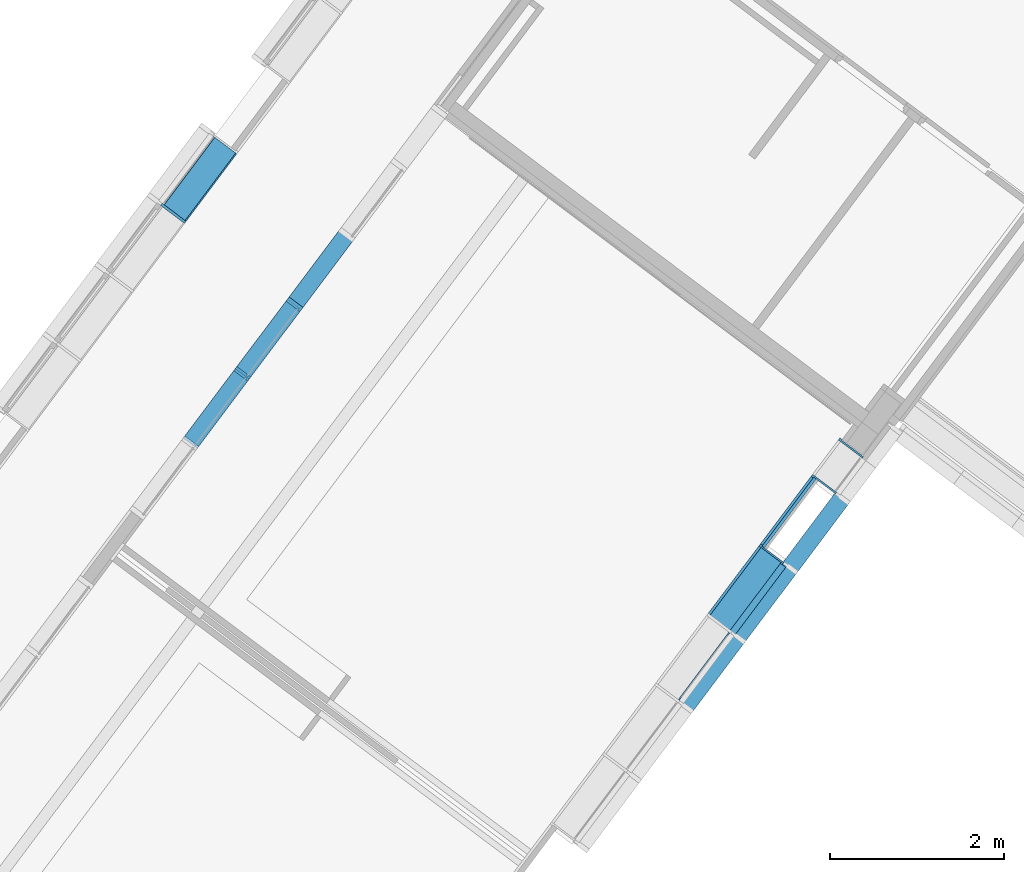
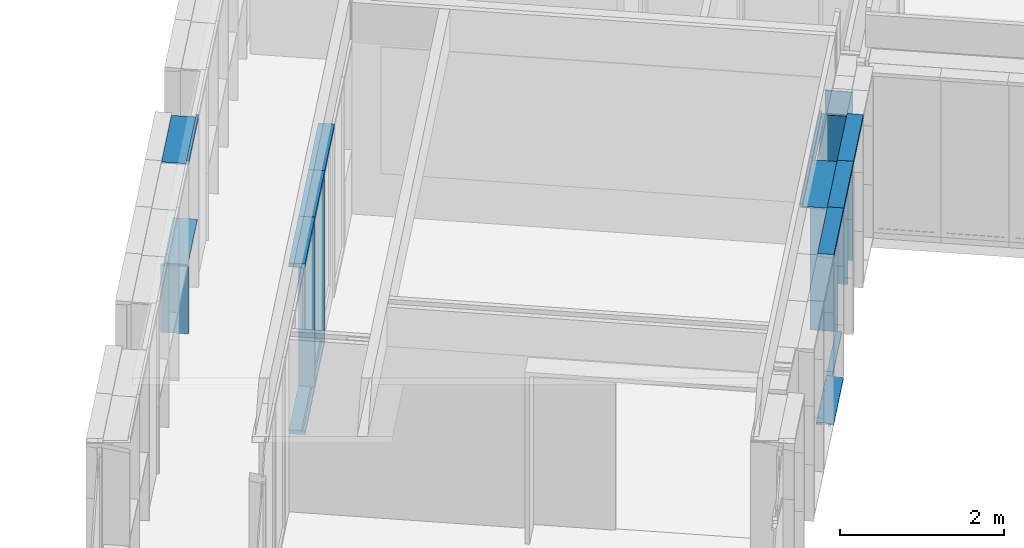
# One storey, part 59 of 243: 20 members, 4 elements without a shape of their own.
"""IFC2X3 building model written with IfcOpenShell, lengths in metres."""

from ifc_helpers import new_model, entity, si_unit, converted_unit, derived_unit, direction, frame, frame_2d, origin, origin_2d_with_axis, place, context, subcontext, project, spatial, polyline, circle_curve, parameter, trimmed, segment, composite_curve, rectangle, outline, extrude, source, transform, mapped, material, type_object, type_shapes, element, aggregate, save


model = new_model("IFC2X3")

# Units and contexts
model_context = context("Model", 3, precision=1e-05, world=origin(), true_north=direction((6.123031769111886e-17, 1.0)))
body_context = subcontext(model_context, "Body", "Model", "MODEL_VIEW")
ifc_project = project(units=[si_unit("LENGTHUNIT", "METRE"), si_unit("AREAUNIT", "SQUARE_METRE"), si_unit("VOLUMEUNIT", "CUBIC_METRE"), converted_unit("PLANEANGLEUNIT", "DEGREE", entity("IfcRatioMeasure", 0.017453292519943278), si_unit("PLANEANGLEUNIT", "RADIAN"), dimensions=[0, 0, 0, 0, 0, 0, 0]), si_unit("MASSUNIT", "GRAM", prefix="KILO"), derived_unit("MASSDENSITYUNIT", [(si_unit("MASSUNIT", "GRAM", prefix="KILO"), 1), (si_unit("LENGTHUNIT", "METRE"), -3)]), derived_unit("IONCONCENTRATIONUNIT", [(si_unit("MASSUNIT", "GRAM", prefix="KILO"), 1), (si_unit("LENGTHUNIT", "METRE"), -3)]), derived_unit("MOMENTOFINERTIAUNIT", [(si_unit("LENGTHUNIT", "METRE"), 4)]), si_unit("TIMEUNIT", "SECOND"), si_unit("FREQUENCYUNIT", "HERTZ"), si_unit("THERMODYNAMICTEMPERATUREUNIT", "DEGREE_CELSIUS"), derived_unit("THERMALTRANSMITTANCEUNIT", [(si_unit("MASSUNIT", "GRAM", prefix="KILO"), 1), (si_unit("THERMODYNAMICTEMPERATUREUNIT", "KELVIN"), -1), (si_unit("TIMEUNIT", "SECOND"), -3)]), derived_unit("THERMALCONDUCTANCEUNIT", [(si_unit("MASSUNIT", "GRAM", prefix="KILO"), 1), (si_unit("THERMODYNAMICTEMPERATUREUNIT", "KELVIN"), -1), (si_unit("TIMEUNIT", "SECOND"), -3), (si_unit("LENGTHUNIT", "METRE"), 1)]), derived_unit("VOLUMETRICFLOWRATEUNIT", [(si_unit("LENGTHUNIT", "METRE"), 3), (si_unit("TIMEUNIT", "SECOND"), -1)]), derived_unit("MASSFLOWRATEUNIT", [(si_unit("MASSUNIT", "GRAM", prefix="KILO"), 1), (si_unit("TIMEUNIT", "SECOND"), -1)]), derived_unit("ROTATIONALFREQUENCYUNIT", [(si_unit("TIMEUNIT", "SECOND"), -1)]), si_unit("ELECTRICCURRENTUNIT", "AMPERE"), si_unit("ELECTRICVOLTAGEUNIT", "VOLT"), si_unit("POWERUNIT", "WATT"), si_unit("FORCEUNIT", "NEWTON", prefix="KILO"), si_unit("ILLUMINANCEUNIT", "LUX"), si_unit("LUMINOUSFLUXUNIT", "LUMEN"), si_unit("LUMINOUSINTENSITYUNIT", "CANDELA"), derived_unit("USERDEFINED", [(si_unit("MASSUNIT", "GRAM", prefix="KILO"), -1), (si_unit("LENGTHUNIT", "METRE"), -2), (si_unit("TIMEUNIT", "SECOND"), 3), (si_unit("LUMINOUSFLUXUNIT", "LUMEN"), 1)]), derived_unit("USERDEFINED", [(si_unit("MASSUNIT", "GRAM", prefix="KILO"), 1), (si_unit("TIMEUNIT", "SECOND"), -3), (si_unit("LENGTHUNIT", "METRE"), 3), (si_unit("ELECTRICCURRENTUNIT", "AMPERE"), -2)]), derived_unit("SOUNDPOWERUNIT", [(si_unit("MASSUNIT", "GRAM", prefix="KILO"), 1), (si_unit("TIMEUNIT", "SECOND"), -3), (si_unit("LENGTHUNIT", "METRE"), 2)]), derived_unit("SOUNDPRESSUREUNIT", [(si_unit("MASSUNIT", "GRAM", prefix="KILO"), 1), (si_unit("LENGTHUNIT", "METRE"), -1), (si_unit("TIMEUNIT", "SECOND"), -2)]), derived_unit("LINEARVELOCITYUNIT", [(si_unit("LENGTHUNIT", "METRE"), 1), (si_unit("TIMEUNIT", "SECOND"), -1)]), si_unit("PRESSUREUNIT", "PASCAL"), derived_unit("USERDEFINED", [(si_unit("MASSUNIT", "GRAM", prefix="KILO"), 1), (si_unit("LENGTHUNIT", "METRE"), -2), (si_unit("TIMEUNIT", "SECOND"), -2)]), derived_unit("LINEARFORCEUNIT", [(si_unit("MASSUNIT", "GRAM", prefix="KILO"), 1), (si_unit("TIMEUNIT", "SECOND"), -2)]), derived_unit("PLANARFORCEUNIT", [(si_unit("MASSUNIT", "GRAM", prefix="KILO"), 1), (si_unit("LENGTHUNIT", "METRE"), -1), (si_unit("TIMEUNIT", "SECOND"), -2)]), derived_unit("SPECIFICHEATCAPACITYUNIT", [(si_unit("THERMODYNAMICTEMPERATUREUNIT", "KELVIN"), -1), (si_unit("LENGTHUNIT", "METRE"), 2), (si_unit("TIMEUNIT", "SECOND"), -2)]), derived_unit("HEATINGVALUEUNIT", [(si_unit("LENGTHUNIT", "METRE"), 2), (si_unit("TIMEUNIT", "SECOND"), -2)]), derived_unit("VAPORPERMEABILITYUNIT", [(si_unit("LENGTHUNIT", "METRE"), -1), (si_unit("TIMEUNIT", "SECOND"), 1)]), derived_unit("DYNAMICVISCOSITYUNIT", [(si_unit("MASSUNIT", "GRAM", prefix="KILO"), 1), (si_unit("TIMEUNIT", "SECOND"), -1), (si_unit("LENGTHUNIT", "METRE"), -1)]), derived_unit("THERMALEXPANSIONCOEFFICIENTUNIT", [(si_unit("THERMODYNAMICTEMPERATUREUNIT", "KELVIN"), -1)]), derived_unit("MODULUSOFELASTICITYUNIT", [(si_unit("MASSUNIT", "GRAM", prefix="KILO"), 1), (si_unit("LENGTHUNIT", "METRE"), -1), (si_unit("TIMEUNIT", "SECOND"), -2)]), derived_unit("ISOTHERMALMOISTURECAPACITYUNIT", [(si_unit("LENGTHUNIT", "METRE"), 3), (si_unit("MASSUNIT", "GRAM", prefix="KILO"), -1)]), derived_unit("MOISTUREDIFFUSIVITYUNIT", [(si_unit("TIMEUNIT", "SECOND"), -1), (si_unit("LENGTHUNIT", "METRE"), 2)])], contexts=[model_context])

# Site, building, storey
site_placement = place(None, frame((0.0, 0.0, 235.0), z_axis=(0.0, 0.0, 1.0), x_axis=(-0.7996477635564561, 0.6004693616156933, 0.0)))
site = spatial("IfcSite", under=ifc_project, at=site_placement, Name="Default", CompositionType="ELEMENT")
building_placement = place(site_placement, origin())
building = spatial("IfcBuilding", under=site, at=building_placement, CompositionType="ELEMENT")
storey_placement = place(building_placement, origin())
storey = spatial("IfcBuildingStorey", under=building, at=storey_placement, Name="P0- Escola", CompositionType="ELEMENT", Elevation=0.0)

# Curtain wall, members
curtain_wall_type_1 = type_object("IfcCurtainWallType", Name="Muro cortina:MC- INT- a1", PredefinedType="NOTDEFINED")
curtain_wall_1_placement = place(storey_placement, origin())
curtain_wall_1 = element("IfcCurtainWall", 1, at=curtain_wall_1_placement, inside=storey, type_object=curtain_wall_type_1, Name="Muro cortina:MC- INT- a1", ObjectType="Muro cortina:MC- INT- a1")
ifc_material_1 = material(Name="_Fusta massisa- T1")
member_type_1 = type_object("IfcMemberType", Name="Montante rectangular:MC- Fusta- 20x6 cm- Esquerra", PredefinedType="MULLION", material=ifc_material_1)
shared_shape_1 = source(origin(), body_context, "Body", "SweptSolid", [
    extrude(outline(polyline([(-0.07000000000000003, -0.01875000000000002), (-0.04000000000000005, -0.01875000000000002), (-0.04000000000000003, -0.0037500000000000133), (-0.020000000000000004, -0.0037500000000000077), (-0.02, -0.018750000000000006), (0.13, -0.018749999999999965), (0.12999999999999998, 0.04125000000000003), (-0.06999999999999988, 0.04124999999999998), (-0.07000000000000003, -0.01875000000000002)])), frame((-0.01124999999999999, -0.03, -2.5050000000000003), z_axis=(0.0, 0.0, 1.0), x_axis=(0.0, -1.0, 0.0)), (0.0, 0.0, 1.0), 2.5050000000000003),
])
type_shapes(member_type_1, [shared_shape_1])
member_1_placement = place(curtain_wall_1_placement, frame((72.72014768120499, -33.41518997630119, 0.0), z_axis=(0.0, 0.0, -1.0), x_axis=(0.0, -1.0, 0.0)))
member_1 = element("IfcMember", 2, at=member_1_placement, type_object=member_type_1, material=ifc_material_1, Name="Montante rectangular:MC- Fusta- 20x6 cm- Esquerra", ObjectType="Montante rectangular:MC- Fusta- 20x6 cm- Esquerra", context=body_context, shape_type="MappedRepresentation", body=[
    mapped(shared_shape_1, transform((0.0, 0.0, 0.0), scale=1.0)),
])
member_type_2 = type_object("IfcMemberType", Name="Montante rectangular:MC- Fusta- 20x6 cm- Neutre", PredefinedType="MULLION", material=ifc_material_1)
shared_shape_2 = source(origin(), body_context, "Body", "SweptSolid", [
    extrude(rectangle(XDim=0.2, YDim=0.060000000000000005, at=frame_2d((-4.85722573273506e-17, -3.469446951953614e-18), x_axis=(1.0, 0.0))), frame((-0.03, -0.060000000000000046, -1.0), z_axis=(0.0, 0.0, 1.0), x_axis=(0.0, -1.0, 0.0)), (0.0, 0.0, 1.0), 0.9999999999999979),
])
type_shapes(member_type_2, [shared_shape_2])
member_2_placement = place(curtain_wall_1_placement, frame((72.72014768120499, -34.41518997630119, 2.565), z_axis=(0.0, -1.0, 0.0), x_axis=(0.0, 0.0, 1.0)))
member_2 = element("IfcMember", 3, at=member_2_placement, type_object=member_type_2, material=ifc_material_1, Name="Montante rectangular:MC- Fusta- 20x6 cm- Neutre", ObjectType="Montante rectangular:MC- Fusta- 20x6 cm- Neutre", context=body_context, shape_type="MappedRepresentation", body=[
    mapped(shared_shape_2, transform((0.0, 0.0, 0.0), scale=1.0)),
])
member_type_3 = type_object("IfcMemberType", Name="Montante rectangular:MC- Fusta- 20x6 cm- Esquerra", PredefinedType="MULLION", material=ifc_material_1)
shared_shape_3 = source(origin(), body_context, "Body", "SweptSolid", [
    extrude(outline(polyline([(-0.07000000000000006, -0.01875000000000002), (-0.04000000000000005, -0.01875000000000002), (-0.04000000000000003, -0.0037500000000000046), (-0.02, -0.0037500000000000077), (-0.019999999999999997, -0.018750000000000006), (0.13, -0.018749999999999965), (0.12999999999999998, 0.04125000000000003), (-0.06999999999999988, 0.04124999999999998), (-0.07000000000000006, -0.01875000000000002)])), frame((-0.041249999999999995, -0.029999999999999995, -1.0), z_axis=(0.0, 0.0, 1.0), x_axis=(0.0, -1.0, 0.0)), (0.0, 0.0, 1.0), 0.9999999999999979),
])
type_shapes(member_type_3, [shared_shape_3])
member_3_placement = place(curtain_wall_1_placement, frame((72.72014768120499, -33.41518997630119, 2.565), z_axis=(0.0, -1.0, 0.0), x_axis=(0.0, 0.0, 1.0)))
member_3 = element("IfcMember", 4, at=member_3_placement, type_object=member_type_3, material=ifc_material_1, Name="Montante rectangular:MC- Fusta- 20x6 cm- Esquerra", ObjectType="Montante rectangular:MC- Fusta- 20x6 cm- Esquerra", context=body_context, shape_type="MappedRepresentation", body=[
    mapped(shared_shape_3, transform((0.0, 0.0, 0.0), scale=1.0)),
])
member_type_4 = type_object("IfcMemberType", Name="Montante rectangular:MC- Fusta- 20x6 cm- Esquerra", PredefinedType="MULLION", material=ifc_material_1)
shared_shape_4 = source(origin(), body_context, "Body", "SweptSolid", [
    extrude(outline(polyline([(-0.07000000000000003, -0.01875000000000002), (-0.04000000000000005, -0.01875000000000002), (-0.04000000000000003, -0.0037500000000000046), (-0.020000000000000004, -0.0037500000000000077), (-0.02, -0.018750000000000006), (0.13, -0.018749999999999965), (0.12999999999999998, 0.04125000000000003), (-0.06999999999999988, 0.04124999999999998), (-0.07000000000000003, -0.01875000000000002)])), frame((-0.041249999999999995, -0.03, -1.0), z_axis=(0.0, 0.0, 1.0), x_axis=(0.0, -1.0, 0.0)), (0.0, 0.0, 1.0), 0.9999999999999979),
])
type_shapes(member_type_4, [shared_shape_4])
member_4_placement = place(curtain_wall_1_placement, frame((72.720147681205, -32.41518997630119, 2.565), z_axis=(0.0, -1.0, 0.0), x_axis=(0.0, 0.0, 1.0)))
member_4 = element("IfcMember", 5, at=member_4_placement, type_object=member_type_4, material=ifc_material_1, Name="Montante rectangular:MC- Fusta- 20x6 cm- Esquerra", ObjectType="Montante rectangular:MC- Fusta- 20x6 cm- Esquerra", context=body_context, shape_type="MappedRepresentation", body=[
    mapped(shared_shape_4, transform((0.0, 0.0, 0.0), scale=1.0)),
])
member_type_5 = type_object("IfcMemberType", Name="Montante rectangular:MC- Fusta- 20x6 cm- Centre", PredefinedType="MULLION", material=ifc_material_1)
shared_shape_5 = source(origin(), body_context, "Body", "SweptSolid", [
    extrude(outline(polyline([(-0.06000000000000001, -0.030000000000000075), (-0.03, -0.030000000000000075), (-0.029999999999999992, -0.015000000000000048), (-0.009999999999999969, -0.01499999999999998), (-0.009999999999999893, -0.030000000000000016), (0.14000000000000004, -0.029999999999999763), (0.13999999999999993, 0.030000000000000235), (-0.010000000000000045, 0.02999999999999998), (-0.01000000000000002, 0.014999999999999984), (-0.030000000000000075, 0.014999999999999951), (-0.03000000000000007, 0.029999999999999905), (-0.059999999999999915, 0.029999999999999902), (-0.06000000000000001, -0.030000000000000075)])), frame((0.0, -0.019999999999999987, -2.505000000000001), z_axis=(0.0, 0.0, 1.0), x_axis=(0.0, -1.0, 0.0)), (0.0, 0.0, 1.0), 2.5050000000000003),
])
type_shapes(member_type_5, [shared_shape_5])
member_5_placement = place(curtain_wall_1_placement, frame((72.720147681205, -32.41518997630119, 0.0), z_axis=(0.0, 0.0, -1.0), x_axis=(0.0, -1.0, 0.0)))
member_5 = element("IfcMember", 6, at=member_5_placement, type_object=member_type_5, material=ifc_material_1, Name="Montante rectangular:MC- Fusta- 20x6 cm- Centre", ObjectType="Montante rectangular:MC- Fusta- 20x6 cm- Centre", context=body_context, shape_type="MappedRepresentation", body=[
    mapped(shared_shape_5, transform((0.0, 0.0, 0.0), scale=1.0)),
])
member_type_6 = type_object("IfcMemberType", Name="Montante rectangular:MC- Fusta- 20x6 cm- Inferior", PredefinedType="MULLION", material=ifc_material_1)
shared_shape_6 = source(origin(), body_context, "Body", "SweptSolid", [
    extrude(outline(polyline([(-0.06999999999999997, -0.018750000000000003), (-0.039999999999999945, -0.018750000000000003), (-0.03999999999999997, -0.003750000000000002), (-0.019999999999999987, -0.0037500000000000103), (-0.019999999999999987, -0.018750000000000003), (0.13000000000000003, -0.018750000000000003), (0.13000000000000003, 0.041249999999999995), (-0.07000000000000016, 0.041249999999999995), (-0.06999999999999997, -0.018750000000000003)])), frame((-0.041249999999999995, -0.02999999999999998, -0.9399999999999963), z_axis=(0.0, 0.0, 1.0), x_axis=(0.0, -1.0, 0.0)), (0.0, 0.0, 1.0), 0.9399999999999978),
])
type_shapes(member_type_6, [shared_shape_6])
member_6_placement = place(curtain_wall_1_placement, frame((72.720147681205, -32.445189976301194, 0.0), z_axis=(0.0, 1.0, 0.0), x_axis=(0.0, 0.0, -1.0)))
member_6 = element("IfcMember", 7, at=member_6_placement, type_object=member_type_6, material=ifc_material_1, Name="Montante rectangular:MC- Fusta- 20x6 cm- Inferior", ObjectType="Montante rectangular:MC- Fusta- 20x6 cm- Inferior", context=body_context, shape_type="MappedRepresentation", body=[
    mapped(shared_shape_6, transform((0.0, 0.0, 0.0), scale=1.0)),
])
member_7_placement = place(curtain_wall_1_placement, frame((72.720147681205, -31.445189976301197, 0.0), z_axis=(0.0, 1.0, 0.0), x_axis=(0.0, 0.0, -1.0)))
member_7 = element("IfcMember", 8, at=member_7_placement, type_object=member_type_6, material=ifc_material_1, Name="Montante rectangular:MC- Fusta- 20x6 cm- Inferior", ObjectType="Montante rectangular:MC- Fusta- 20x6 cm- Inferior", context=body_context, shape_type="MappedRepresentation", body=[
    mapped(shared_shape_6, transform((0.0, 0.0, 0.0), scale=1.0)),
])
aggregate(curtain_wall_1, [member_2, member_3, member_1, member_4, member_5, member_6, member_7])

curtain_wall_type_2 = type_object("IfcCurtainWallType", Name="Muro cortina:MC- EXT- MC2", PredefinedType="NOTDEFINED")
curtain_wall_2_placement = place(storey_placement, origin())
curtain_wall_2 = element("IfcCurtainWall", 9, at=curtain_wall_2_placement, inside=storey, type_object=curtain_wall_type_2, Name="Muro cortina:MC- EXT- MC2", ObjectType="Muro cortina:MC- EXT- MC2")
ifc_material_2 = material(Name="_Alumini- T1- Perfil")
member_type_7 = type_object("IfcMemberType", Name="Montante rectangular:MC- Alu- 140x52,5 cm- Fa patis- Superior", PredefinedType="MULLION", material=ifc_material_2)
shared_shape_7 = source(origin(), body_context, "Body", "SweptSolid", [
    extrude(outline(polyline([(-0.11366666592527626, -0.021249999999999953), (0.026333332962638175, -0.021249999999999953), (0.026333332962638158, -0.010000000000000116), (0.0873333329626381, -0.010000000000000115), (0.0873333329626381, 0.03125000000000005), (-0.11366666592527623, 0.031250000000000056), (-0.11366666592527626, -0.021249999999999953)])), frame((-0.031250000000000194, 0.0273333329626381, -1.0), z_axis=(0.0, 0.0, 1.0), x_axis=(0.0, -1.0, 0.0)), (0.0, 0.0, 1.0), 0.9999999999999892),
])
type_shapes(member_type_7, [shared_shape_7])
member_8_placement = place(curtain_wall_2_placement, frame((66.44514768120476, -33.41519175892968, 2.545), z_axis=(0.0, -1.0, 0.0), x_axis=(0.0, 0.0, 1.0)))
member_8 = element("IfcMember", 10, at=member_8_placement, type_object=member_type_7, material=ifc_material_2, Name="Montante rectangular:MC- Alu- 140x52,5 cm- Fa patis- Superior", ObjectType="Montante rectangular:MC- Alu- 140x52,5 cm- Fa patis- Superior", context=body_context, shape_type="MappedRepresentation", body=[
    mapped(shared_shape_7, transform((0.0, 0.0, 0.0), scale=1.0)),
])
member_9_placement = place(curtain_wall_2_placement, frame((66.44514768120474, -35.41519175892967, 2.545), z_axis=(0.0, -1.0, 0.0), x_axis=(0.0, 0.0, 1.0)))
member_9 = element("IfcMember", 11, at=member_9_placement, type_object=member_type_7, material=ifc_material_2, Name="Montante rectangular:MC- Alu- 140x52,5 cm- Fa patis- Superior", ObjectType="Montante rectangular:MC- Alu- 140x52,5 cm- Fa patis- Superior", context=body_context, shape_type="MappedRepresentation", body=[
    mapped(shared_shape_7, transform((0.0, 0.0, 0.0), scale=1.0)),
])
member_10_placement = place(curtain_wall_2_placement, frame((66.44514768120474, -34.415191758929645, 2.545), z_axis=(0.0, -1.0, 0.0), x_axis=(0.0, 0.0, 1.0)))
member_10 = element("IfcMember", 12, at=member_10_placement, type_object=member_type_7, material=ifc_material_2, Name="Montante rectangular:MC- Alu- 140x52,5 cm- Fa patis- Superior", ObjectType="Montante rectangular:MC- Alu- 140x52,5 cm- Fa patis- Superior", context=body_context, shape_type="MappedRepresentation", body=[
    mapped(shared_shape_7, transform((0.0, 0.0, 0.0), scale=1.0)),
])

curtain_wall_type_3 = type_object("IfcCurtainWallType", Name="Muro cortina:MC- INT- k7- Aules infantil", PredefinedType="NOTDEFINED")
curtain_wall_3_placement = place(storey_placement, origin())
curtain_wall_3 = element("IfcCurtainWall", 13, at=curtain_wall_3_placement, inside=storey, type_object=curtain_wall_type_3, Name="Muro cortina:MC- INT- k7- Aules infantil", ObjectType="Muro cortina:MC- INT- k7- Aules infantil")
member_type_8 = type_object("IfcMemberType", Name="Montante rectangular:MC- Fusta- 35x3 cm- Pati aules- Remat dreta", PredefinedType="MULLION", material=ifc_material_1)
shared_shape_8 = source(origin(), body_context, "Body", "SweptSolid", [
    extrude(outline(polyline([(-0.22, -0.01666666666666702), (0.12500000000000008, -0.01666666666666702), (0.12500000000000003, 0.013333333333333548), (0.09500000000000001, 0.013333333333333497), (0.09499999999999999, 0.003333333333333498), (-0.22, 0.003333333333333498), (-0.22, -0.01666666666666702)])), frame((0.0016666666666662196, 0.03000000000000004, -2.504999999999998), z_axis=(0.0, 0.0, 1.0), x_axis=(0.0, -1.0, 0.0)), (0.0, 0.0, 1.0), 2.5049999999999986),
])
type_shapes(member_type_8, [shared_shape_8])
member_11_placement = place(curtain_wall_3_placement, frame((66.745147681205, -34.4151917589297, 0.0), z_axis=(0.0, 0.0, -1.0), x_axis=(0.0, -1.0, 0.0)))
member_11 = element("IfcMember", 14, at=member_11_placement, type_object=member_type_8, material=ifc_material_1, Name="Montante rectangular:MC- Fusta- 35x3 cm- Pati aules- Remat dreta", ObjectType="Montante rectangular:MC- Fusta- 35x3 cm- Pati aules- Remat dreta", context=body_context, shape_type="MappedRepresentation", body=[
    mapped(shared_shape_8, transform((0.0, 0.0, 0.0), scale=1.0)),
])
member_type_9 = type_object("IfcMemberType", Name="Montante rectangular:MC- Fusta- 35x3 cm- Pati aules- Remat superior pilar", PredefinedType="MULLION", material=ifc_material_1)
shared_shape_9 = source(origin(), body_context, "Body", "SweptSolid", [
    extrude(outline(polyline([(-0.03333333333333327, -0.02666666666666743), (0.031666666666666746, -0.02666666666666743), (0.031666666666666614, 0.03333333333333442), (0.0016666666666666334, 0.033333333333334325), (0.0016666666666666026, -0.006666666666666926), (-0.03333333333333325, -0.00666666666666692), (-0.03333333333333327, -0.02666666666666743)])), frame((-0.03333333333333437, -0.06333333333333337, -1.0), z_axis=(0.0, 0.0, 1.0), x_axis=(0.0, -1.0, 0.0)), (0.0, 0.0, 1.0), 0.9999999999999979),
])
type_shapes(member_type_9, [shared_shape_9])
member_12_placement = place(curtain_wall_3_placement, frame((66.745147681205, -35.4151917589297, 2.565), z_axis=(0.0, -1.0, 0.0), x_axis=(0.0, 0.0, 1.0)))
member_12 = element("IfcMember", 15, at=member_12_placement, type_object=member_type_9, material=ifc_material_1, Name="Montante rectangular:MC- Fusta- 35x3 cm- Pati aules- Remat superior pilar", ObjectType="Montante rectangular:MC- Fusta- 35x3 cm- Pati aules- Remat superior pilar", context=body_context, shape_type="MappedRepresentation", body=[
    mapped(shared_shape_9, transform((0.0, 0.0, 0.0), scale=1.0)),
])
member_type_10 = type_object("IfcMemberType", Name="Montante rectangular:MC- Fusta- 35x3 cm- Pati aules- Remat esquerra", PredefinedType="MULLION", material=ifc_material_1)
shared_shape_10 = source(origin(), body_context, "Body", "SweptSolid", [
    extrude(outline(polyline([(0.09500000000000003, -0.013333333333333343), (0.12500000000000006, -0.013333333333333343), (0.12500000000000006, 0.01666666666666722), (-0.22000000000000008, 0.016666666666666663), (-0.22000000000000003, -0.0033333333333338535), (0.09499999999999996, -0.003333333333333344), (0.09500000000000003, -0.013333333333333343)])), frame((-0.0016666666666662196, 0.03000000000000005, -2.504999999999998), z_axis=(0.0, 0.0, 1.0), x_axis=(0.0, -1.0, 0.0)), (0.0, 0.0, 1.0), 2.5049999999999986),
])
type_shapes(member_type_10, [shared_shape_10])
member_13_placement = place(curtain_wall_3_placement, frame((66.745147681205, -35.4151917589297, 0.0), z_axis=(0.0, 0.0, -1.0), x_axis=(0.0, -1.0, 0.0)))
member_13 = element("IfcMember", 16, at=member_13_placement, type_object=member_type_10, material=ifc_material_1, Name="Montante rectangular:MC- Fusta- 35x3 cm- Pati aules- Remat esquerra", ObjectType="Montante rectangular:MC- Fusta- 35x3 cm- Pati aules- Remat esquerra", context=body_context, shape_type="MappedRepresentation", body=[
    mapped(shared_shape_10, transform((0.0, 0.0, 0.0), scale=1.0)),
])
member_type_11 = type_object("IfcMemberType", Name="Montante rectangular:MC- Fusta- 35x3 cm- Pati aules- Remat superior", PredefinedType="MULLION", material=ifc_material_1)
shared_shape_11 = source(origin(), body_context, "Body", "SweptSolid", [
    extrude(outline(polyline([(-0.21333333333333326, -0.02666666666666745), (0.1216666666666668, -0.02666666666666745), (0.12166666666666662, 0.03333333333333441), (0.09166666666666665, 0.03333333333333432), (0.09166666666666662, -0.006666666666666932), (-0.2133333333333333, -0.006666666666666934), (-0.21333333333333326, -0.02666666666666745)])), frame((-0.033333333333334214, 0.026666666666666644, -1.0), z_axis=(0.0, 0.0, 1.0), x_axis=(0.0, -1.0, 0.0)), (0.0, 0.0, 1.0), 0.9999999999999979),
])
type_shapes(member_type_11, [shared_shape_11])
member_14_placement = place(curtain_wall_3_placement, frame((66.745147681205, -34.4151917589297, 2.565), z_axis=(0.0, -1.0, 0.0), x_axis=(0.0, 0.0, 1.0)))
member_14 = element("IfcMember", 17, at=member_14_placement, type_object=member_type_11, material=ifc_material_1, Name="Montante rectangular:MC- Fusta- 35x3 cm- Pati aules- Remat superior", ObjectType="Montante rectangular:MC- Fusta- 35x3 cm- Pati aules- Remat superior", context=body_context, shape_type="MappedRepresentation", body=[
    mapped(shared_shape_11, transform((0.0, 0.0, 0.0), scale=1.0)),
])
member_type_12 = type_object("IfcMemberType", Name="Montante rectangular:MC- Fusta- 35x3 cm- Pati aules- Remat dreta", PredefinedType="MULLION", material=ifc_material_1)
shared_shape_12 = source(origin(), body_context, "Body", "SweptSolid", [
    extrude(outline(polyline([(-0.22000000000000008, -0.01666666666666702), (0.12500000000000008, -0.01666666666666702), (0.12500000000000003, 0.013333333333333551), (0.09500000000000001, 0.013333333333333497), (0.09499999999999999, 0.003333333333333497), (-0.22, 0.003333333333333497), (-0.22000000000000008, -0.01666666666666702)])), frame((-0.013333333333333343, 0.030000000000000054, -2.504999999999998), z_axis=(0.0, 0.0, 1.0), x_axis=(0.0, -1.0, 0.0)), (0.0, 0.0, 1.0), 2.5049999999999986),
])
type_shapes(member_type_12, [shared_shape_12])
member_15_placement = place(curtain_wall_3_placement, frame((66.745147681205, -35.9531899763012, 0.0), z_axis=(0.0, 0.0, -1.0), x_axis=(0.0, -1.0, 0.0)))
member_15 = element("IfcMember", 18, at=member_15_placement, type_object=member_type_12, material=ifc_material_1, Name="Montante rectangular:MC- Fusta- 35x3 cm- Pati aules- Remat dreta", ObjectType="Montante rectangular:MC- Fusta- 35x3 cm- Pati aules- Remat dreta", context=body_context, shape_type="MappedRepresentation", body=[
    mapped(shared_shape_12, transform((0.0, 0.0, 0.0), scale=1.0)),
])
aggregate(curtain_wall_3, [member_14, member_11, member_12, member_13, member_15])

curtain_wall_type_4 = type_object("IfcCurtainWallType", Name="Muro cortina:MC- INT- k2", PredefinedType="NOTDEFINED")
curtain_wall_4_placement = place(storey_placement, origin())
curtain_wall_4 = element("IfcCurtainWall", 19, at=curtain_wall_4_placement, inside=storey, type_object=curtain_wall_type_4, Name="Muro cortina:MC- INT- k2", ObjectType="Muro cortina:MC- INT- k2")
member_type_13 = type_object("IfcMemberType", Name="Montante rectangular:MC- Fusta- 35x3 cm- Centre", PredefinedType="MULLION", material=ifc_material_1)
shared_shape_13 = source(origin(), body_context, "Body", "SweptSolid", [
    extrude(rectangle(XDim=0.3450000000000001, YDim=0.030000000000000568, at=frame_2d((0.0, -1.3964523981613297e-16), x_axis=(1.0, 0.0))), frame((0.0, -0.07750000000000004, -1.0), z_axis=(0.0, 0.0, 1.0), x_axis=(0.0, -1.0, 0.0)), (0.0, 0.0, 1.0), 1.0),
])
type_shapes(member_type_13, [shared_shape_13])
member_16_placement = place(curtain_wall_4_placement, frame((74.44514768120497, -33.4151917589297, 0.0), z_axis=(0.0, 0.0, -1.0), x_axis=(0.0, -1.0, 0.0)))
member_16 = element("IfcMember", 20, at=member_16_placement, type_object=member_type_13, material=ifc_material_1, Name="Montante rectangular:MC- Fusta- 35x3 cm- Centre", ObjectType="Montante rectangular:MC- Fusta- 35x3 cm- Centre", context=body_context, shape_type="MappedRepresentation", body=[
    mapped(shared_shape_13, transform((0.0, 0.0, 0.0), scale=1.0)),
])
member_type_14 = type_object("IfcMemberType", Name="Montante rectangular:MC- Fusta- 35x3 cm- Pati aules- Remat superior", PredefinedType="MULLION", material=ifc_material_1)
shared_shape_14 = source(origin(), body_context, "Body", "SweptSolid", [
    extrude(outline(polyline([(-0.12166666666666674, -0.02666666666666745), (0.21333333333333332, -0.02666666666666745), (0.2133333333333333, -0.006666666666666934), (-0.09166666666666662, -0.006666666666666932), (-0.09166666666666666, 0.03333333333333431), (-0.12166666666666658, 0.03333333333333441), (-0.12166666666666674, -0.02666666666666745)])), frame((-0.033333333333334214, -0.026666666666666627, -1.0), z_axis=(0.0, 0.0, 1.0), x_axis=(0.0, -1.0, 0.0)), (0.0, 0.0, 1.0), 0.9999999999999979),
])
type_shapes(member_type_14, [shared_shape_14])
member_17_placement = place(curtain_wall_4_placement, frame((74.44514768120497, -34.4151917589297, 2.565), z_axis=(0.0, -1.0, 0.0), x_axis=(0.0, 0.0, 1.0)))
member_17 = element("IfcMember", 21, at=member_17_placement, type_object=member_type_14, material=ifc_material_1, Name="Montante rectangular:MC- Fusta- 35x3 cm- Pati aules- Remat superior", ObjectType="Montante rectangular:MC- Fusta- 35x3 cm- Pati aules- Remat superior", context=body_context, shape_type="MappedRepresentation", body=[
    mapped(shared_shape_14, transform((0.0, 0.0, 0.0), scale=1.0)),
])
member_type_15 = type_object("IfcMemberType", Name="Montante rectangular:MC- Fusta- 35x3 cm- Pati aules- Prestatge", PredefinedType="MULLION", material=ifc_material_1)
shared_shape_15 = source(origin(), body_context, "Body", "SweptSolid", [
    extrude(rectangle(XDim=0.30000000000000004, YDim=0.03000000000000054, at=frame_2d((0.0, -1.231653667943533e-16), x_axis=(1.0, 0.0))), frame((0.0, -0.07000000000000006, -0.9699999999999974), z_axis=(0.0, 0.0, 1.0), x_axis=(0.0, -1.0, 0.0)), (0.0, 0.0, 1.0), 0.969999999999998),
])
type_shapes(member_type_15, [shared_shape_15])
member_18_placement = place(curtain_wall_4_placement, frame((74.44514768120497, -34.4001917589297, 1.0), z_axis=(0.0, -1.0, 0.0), x_axis=(0.0, 0.0, 1.0)))
member_18 = element("IfcMember", 22, at=member_18_placement, type_object=member_type_15, material=ifc_material_1, Name="Montante rectangular:MC- Fusta- 35x3 cm- Pati aules- Prestatge", ObjectType="Montante rectangular:MC- Fusta- 35x3 cm- Pati aules- Prestatge", context=body_context, shape_type="MappedRepresentation", body=[
    mapped(shared_shape_15, transform((0.0, 0.0, 0.0), scale=1.0)),
])
aggregate(curtain_wall_4, [member_16, member_17, member_18])

# Member
member_type_16 = type_object("IfcMemberType", Name="Montante rectangular:MC- Alu- 140x52,5 cm- Fa patis- inferior", PredefinedType="MULLION", material=ifc_material_2)
shared_shape_16 = source(origin(), body_context, "Body", "SweptSolid", [
    extrude(outline(composite_curve([segment(polyline([(0.1278672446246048, -0.02586710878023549), (0.14416724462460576, -0.025867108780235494)]), True, "CONTINUOUS"), segment(polyline([(0.14416724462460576, -0.025867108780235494), (0.1441672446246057, 0.009132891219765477)]), True, "CONTINUOUS"), segment(polyline([(0.1441672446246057, 0.009132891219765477), (0.06786724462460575, 0.009132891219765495)]), True, "CONTINUOUS"), segment(polyline([(0.06786724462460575, 0.009132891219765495), (0.06786724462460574, -0.021159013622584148)]), True, "CONTINUOUS"), segment(polyline([(0.06786724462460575, -0.02115901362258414), (-0.030132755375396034, -0.012332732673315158)]), True, "CONTINUOUS"), segment(polyline([(-0.03013275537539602, -0.012332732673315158), (-0.030132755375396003, 0.027132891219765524)]), True, "CONTINUOUS"), segment(polyline([(-0.030132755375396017, 0.02713289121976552), (-0.0021327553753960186, 0.02713289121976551)]), True, "CONTINUOUS"), segment(polyline([(-0.0021327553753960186, 0.027132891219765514), (-0.0021327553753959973, 0.029132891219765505)]), True, "CONTINUOUS"), segment(polyline([(-0.0021327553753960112, 0.029132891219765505), (-0.032132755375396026, 0.029132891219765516)]), True, "CONTINUOUS"), segment(polyline([(-0.032132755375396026, 0.029132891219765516), (-0.03213275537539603, -0.012152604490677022)]), True, "CONTINUOUS"), segment(polyline([(-0.03213275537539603, -0.012152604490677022), (-0.0701327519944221, -0.008730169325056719)]), True, "CONTINUOUS"), segment(polyline([(-0.0701327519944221, -0.008730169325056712), (-0.0701327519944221, 0.005766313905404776)]), True, "CONTINUOUS"), segment(trimmed(circle_curve(frame_2d((-0.0696327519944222, 0.0057663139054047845), x_axis=(-1.0, 0.0)), 0.0004999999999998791), [parameter(269.999999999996)], [parameter(0.0)], True, "PARAMETER"), False, "CONTINUOUS"), segment(polyline([(-0.0696327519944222, 0.00626631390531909), (-0.06213275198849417, 0.006266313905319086)]), True, "CONTINUOUS"), segment(polyline([(-0.06213275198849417, 0.006266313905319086), (-0.06213275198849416, 0.008266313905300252)]), True, "CONTINUOUS"), segment(polyline([(-0.06213275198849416, 0.008266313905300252), (-0.07013275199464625, 0.008266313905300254)]), True, "CONTINUOUS"), segment(trimmed(circle_curve(frame_2d((-0.07013275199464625, 0.006266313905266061), x_axis=(0.0, 1.0)), 0.0020000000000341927), [parameter(0.0)], [parameter(90.00000002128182)], True, "PARAMETER"), True, "CONTINUOUS"), segment(polyline([(-0.07213275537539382, 0.006266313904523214), (-0.07213275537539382, -0.008730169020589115)]), True, "CONTINUOUS"), segment(trimmed(circle_curve(frame_2d((-0.07013275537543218, -0.008730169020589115), x_axis=(-1.0, 0.0)), 0.0019999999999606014), [parameter(0.0)], [parameter(84.8535928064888)], True, "PARAMETER"), True, "CONTINUOUS"), segment(polyline([(-0.07031215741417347, -0.01072210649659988), (0.06786724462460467, -0.023167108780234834)]), True, "CONTINUOUS"), segment(polyline([(0.06786724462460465, -0.023167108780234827), (0.12786724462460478, -0.023167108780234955)]), True, "CONTINUOUS"), segment(polyline([(0.12786724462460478, -0.023167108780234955), (0.1278672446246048, -0.02586710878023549)]), True, "CONTINUOUS")], self_intersect=False)), frame((-0.029132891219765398, 0.06786724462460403, -1.0), z_axis=(0.0, 0.0, 1.0), x_axis=(0.0, -1.0, 0.0)), (0.0, 0.0, 1.0), 0.9999999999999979),
])
type_shapes(member_type_16, [shared_shape_16])
member_19_placement = place(curtain_wall_2_placement, frame((66.44514768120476, -32.41519175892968, -0.02), z_axis=(0.0, 1.0, 0.0), x_axis=(0.0, 0.0, -1.0)))
member_19 = element("IfcMember", 23, at=member_19_placement, type_object=member_type_16, material=ifc_material_2, Name="Montante rectangular:MC- Alu- 140x52,5 cm- Fa patis- inferior", ObjectType="Montante rectangular:MC- Alu- 140x52,5 cm- Fa patis- inferior", context=body_context, shape_type="MappedRepresentation", body=[
    mapped(shared_shape_16, transform((0.0, 0.0, 0.0), scale=1.0)),
])

member_type_17 = type_object("IfcMemberType", Name="Montante rectangular:MC- Alu- 140x52,5 cm- Fa patis- inferior porta", PredefinedType="MULLION", material=ifc_material_2)
shared_shape_17 = source(origin(), body_context, "Body", "SweptSolid", [
    extrude(rectangle(XDim=0.07629999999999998, YDim=0.04, at=origin_2d_with_axis()), frame((-0.020000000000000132, -0.0381500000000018, -0.9737499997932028), z_axis=(0.0, 0.0, 1.0), x_axis=(0.0, -1.0, 0.0)), (0.0, 0.0, 1.0), 0.9737499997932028),
])
type_shapes(member_type_17, [shared_shape_17])
member_20_placement = place(curtain_wall_2_placement, frame((66.44514768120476, -33.41519175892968, -0.02), z_axis=(0.0, 1.0, 0.0), x_axis=(0.0, 0.0, -1.0)))
member_20 = element("IfcMember", 24, at=member_20_placement, type_object=member_type_17, material=ifc_material_2, Name="Montante rectangular:MC- Alu- 140x52,5 cm- Fa patis- inferior porta", ObjectType="Montante rectangular:MC- Alu- 140x52,5 cm- Fa patis- inferior porta", context=body_context, shape_type="MappedRepresentation", body=[
    mapped(shared_shape_17, transform((0.0, 0.0, 0.0), scale=1.0)),
])

aggregate(curtain_wall_2, [member_19, member_8, member_20, member_9, member_10])

save(model, "model.ifc")
